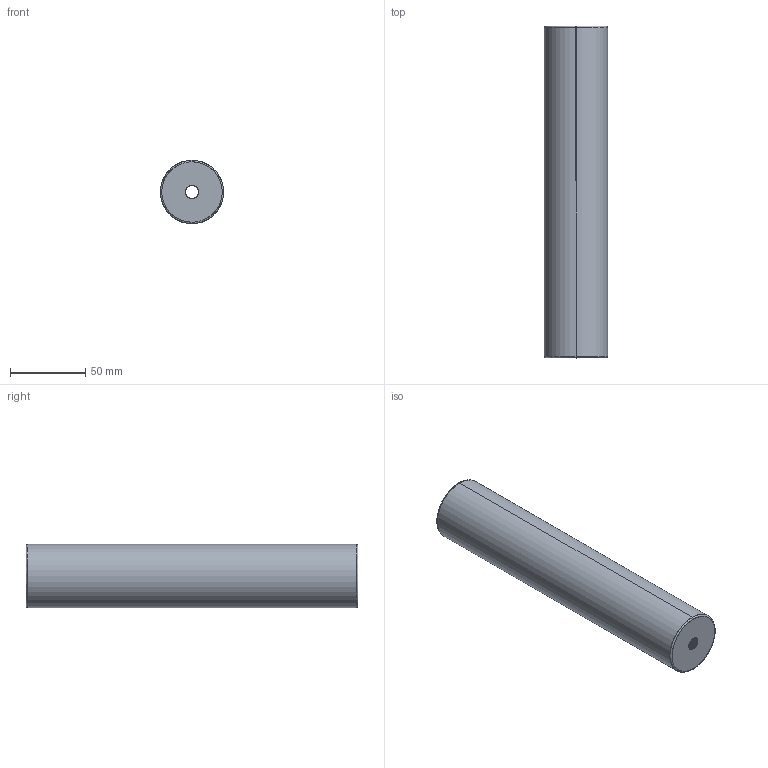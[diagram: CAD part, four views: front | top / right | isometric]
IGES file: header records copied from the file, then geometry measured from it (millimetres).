
Start section: SolidWorks IGES file using analytic representation for surfaces
Global section: file name: D:\Belgelerim\solid çalýþmalarým\D40 VÝDA KANALI AÇILACAK\ÝGS\D40_42X220.IGS; native system: SolidWorks 2008; preprocessor: SolidWorks 2008; author: kalite-mail; date: 080708.170748; units: millimetre
Bounding box: 42 x 220 x 42 mm (x, y, z)
Surface area: 53261.6 mm2 (no closed solid volume)
Topology: 0 solids, 0 shells, 60 faces, 1640 edges, 1640 vertices
Faces by surface type: revolution 45, bspline 15
